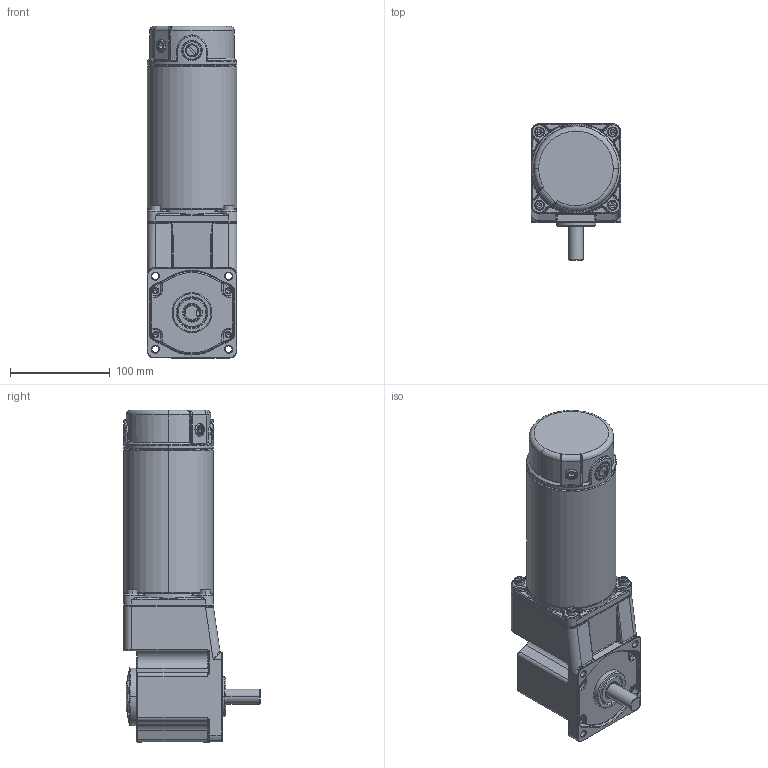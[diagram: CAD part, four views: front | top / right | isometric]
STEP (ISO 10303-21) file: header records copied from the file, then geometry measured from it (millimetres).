
FILE_DESCRIPTION (( 'STEP AP214' ), '1' );
FILE_NAME ('Íâ¾¶90-145»ú¿ÇRT.STEP', '2021-07-23T08:05:11', ( '' ), ( '' ), 'SwSTEP 2.0', 'SolidWorks 2021', '' );
FILE_SCHEMA (( 'AUTOMOTIVE_DESIGN' ));
Length unit declared in the file: millimetre
Products named in the file (8): PRT0003_1_3; PRT0002_1_3; 5RT_3; T_3; 俋噤90-145儂褲RT; Z55D-300W-L_1_4; PRT0001_3; L_3
Assembly tree (9 placements, depth 3):
  俋噤90-145儂褲RT
    Z55D-300W-L_1_4
      L_3  x2
      PRT0001_3
      T_3  x2
      PRT0003_1_3
      PRT0002_1_3
    5RT_3
Bounding box: 90 x 137 x 333.5 mm (x, y, z)
Volume: 1074056.1 mm3; surface area: 295103.9 mm2
Topology: 22 solids, 24 shells, 2390 faces, 5770 edges, 3408 vertices
Faces by surface type: cylinder 671, plane 540, cone 434, torus 366, bspline 299, sphere 80
Entity records: 104419 total; most frequent: CARTESIAN_POINT 53276, ORIENTED_EDGE 11168, DIRECTION 9894, EDGE_CURVE 5584, AXIS2_PLACEMENT_3D 4075, VERTEX_POINT 3333, EDGE_LOOP 2451, ADVANCED_FACE 2342
